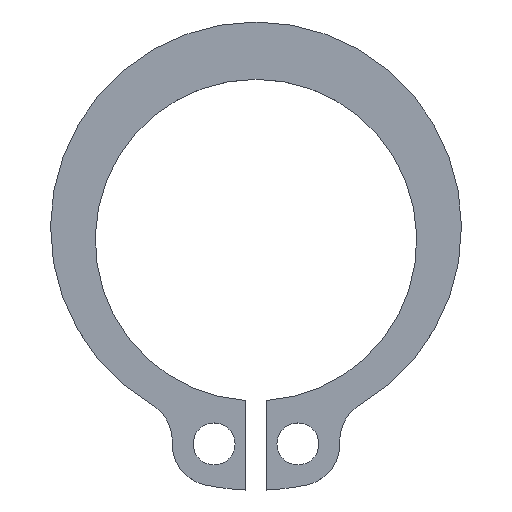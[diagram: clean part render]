
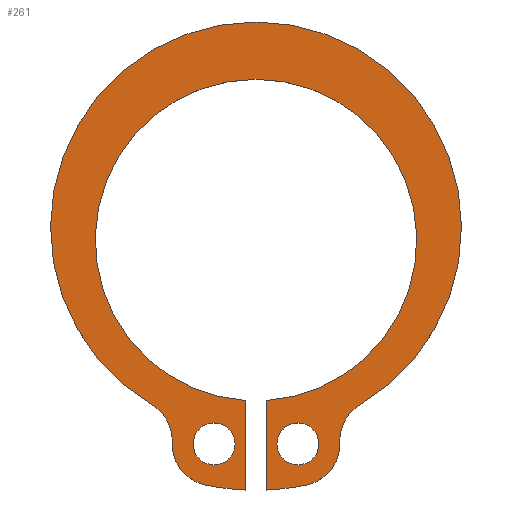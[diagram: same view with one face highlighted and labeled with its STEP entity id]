
A CAD part, top view. The second image highlights one B-rep face of the part: STEP entity #261.
In plain terms, the highlighted planar face has unit normal (0, 0, 1).
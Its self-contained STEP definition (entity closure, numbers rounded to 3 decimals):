
#15=FACE_BOUND('',#50,.T.);
#16=FACE_BOUND('',#51,.T.);
#21=PLANE('',#318);
#35=FACE_OUTER_BOUND('',#49,.T.);
#49=EDGE_LOOP('',(#215,#216,#217,#218,#219,#220,#221,#222,#223,#224));
#50=EDGE_LOOP('',(#225));
#51=EDGE_LOOP('',(#226));
#64=LINE('',#460,#80);
#68=LINE('',#472,#84);
#80=VECTOR('',#381,10.);
#84=VECTOR('',#393,10.);
#88=CIRCLE('',#288,0.75);
#90=CIRCLE('',#291,0.75);
#91=CIRCLE('',#293,1.5);
#93=CIRCLE('',#296,1.5);
#95=CIRCLE('',#299,7.35);
#97=CIRCLE('',#302,1.5);
#99=CIRCLE('',#305,1.5);
#101=CIRCLE('',#308,8.946);
#103=CIRCLE('',#312,5.75);
#105=CIRCLE('',#316,8.946);
#108=VERTEX_POINT('',#410);
#110=VERTEX_POINT('',#416);
#111=VERTEX_POINT('',#420);
#112=VERTEX_POINT('',#421);
#115=VERTEX_POINT('',#429);
#117=VERTEX_POINT('',#435);
#119=VERTEX_POINT('',#441);
#121=VERTEX_POINT('',#447);
#123=VERTEX_POINT('',#453);
#125=VERTEX_POINT('',#459);
#127=VERTEX_POINT('',#465);
#129=VERTEX_POINT('',#471);
#133=EDGE_CURVE('',#108,#108,#88,.T.);
#136=EDGE_CURVE('',#110,#110,#90,.T.);
#137=EDGE_CURVE('',#111,#112,#91,.T.);
#141=EDGE_CURVE('',#112,#115,#93,.T.);
#144=EDGE_CURVE('',#115,#117,#95,.T.);
#147=EDGE_CURVE('',#117,#119,#97,.T.);
#150=EDGE_CURVE('',#119,#121,#99,.T.);
#153=EDGE_CURVE('',#121,#123,#101,.T.);
#156=EDGE_CURVE('',#123,#125,#64,.T.);
#159=EDGE_CURVE('',#125,#127,#103,.T.);
#162=EDGE_CURVE('',#127,#129,#68,.T.);
#165=EDGE_CURVE('',#129,#111,#105,.T.);
#215=ORIENTED_EDGE('',*,*,#137,.F.);
#216=ORIENTED_EDGE('',*,*,#165,.F.);
#217=ORIENTED_EDGE('',*,*,#162,.F.);
#218=ORIENTED_EDGE('',*,*,#159,.F.);
#219=ORIENTED_EDGE('',*,*,#156,.F.);
#220=ORIENTED_EDGE('',*,*,#153,.F.);
#221=ORIENTED_EDGE('',*,*,#150,.F.);
#222=ORIENTED_EDGE('',*,*,#147,.F.);
#223=ORIENTED_EDGE('',*,*,#144,.F.);
#224=ORIENTED_EDGE('',*,*,#141,.F.);
#225=ORIENTED_EDGE('',*,*,#133,.T.);
#226=ORIENTED_EDGE('',*,*,#136,.T.);
#261=ADVANCED_FACE('',(#35,#15,#16),#21,.T.);
#288=AXIS2_PLACEMENT_3D('',#412,#327,#328);
#291=AXIS2_PLACEMENT_3D('',#418,#334,#335);
#293=AXIS2_PLACEMENT_3D('',#422,#338,#339);
#296=AXIS2_PLACEMENT_3D('',#430,#346,#347);
#299=AXIS2_PLACEMENT_3D('',#436,#353,#354);
#302=AXIS2_PLACEMENT_3D('',#442,#360,#361);
#305=AXIS2_PLACEMENT_3D('',#448,#367,#368);
#308=AXIS2_PLACEMENT_3D('',#454,#374,#375);
#312=AXIS2_PLACEMENT_3D('',#466,#386,#387);
#316=AXIS2_PLACEMENT_3D('',#477,#398,#399);
#318=AXIS2_PLACEMENT_3D('',#479,#402,#403);
#327=DIRECTION('center_axis',(0.,0.,-1.));
#328=DIRECTION('ref_axis',(-1.,0.,0.));
#334=DIRECTION('center_axis',(0.,0.,-1.));
#335=DIRECTION('ref_axis',(-1.,0.,0.));
#338=DIRECTION('center_axis',(0.,0.,-1.));
#339=DIRECTION('ref_axis',(0.999,-0.04,0.));
#346=DIRECTION('center_axis',(0.,0.,1.));
#347=DIRECTION('ref_axis',(0.999,-0.04,0.));
#353=DIRECTION('center_axis',(0.,0.,-1.));
#354=DIRECTION('ref_axis',(-0.508,0.861,0.));
#360=DIRECTION('center_axis',(0.,0.,1.));
#361=DIRECTION('ref_axis',(-0.508,0.861,0.));
#367=DIRECTION('center_axis',(0.,0.,-1.));
#368=DIRECTION('ref_axis',(-0.201,0.979,0.));
#374=DIRECTION('center_axis',(0.,0.,-1.));
#375=DIRECTION('ref_axis',(-0.042,0.999,0.));
#381=DIRECTION('',(0.,1.,0.));
#386=DIRECTION('center_axis',(0.,0.,1.));
#387=DIRECTION('ref_axis',(0.065,-0.998,0.));
#393=DIRECTION('',(0.,-1.,0.));
#398=DIRECTION('center_axis',(0.,0.,-1.));
#399=DIRECTION('ref_axis',(0.201,0.979,0.));
#402=DIRECTION('center_axis',(0.,0.,1.));
#403=DIRECTION('ref_axis',(1.,0.,0.));
#410=CARTESIAN_POINT('',(2.25,-13.293,1.));
#412=CARTESIAN_POINT('Origin',(1.5,-13.293,1.));
#416=CARTESIAN_POINT('',(-0.75,-13.293,1.));
#418=CARTESIAN_POINT('Origin',(-1.5,-13.293,1.));
#420=CARTESIAN_POINT('',(-1.802,-14.762,1.));
#421=CARTESIAN_POINT('',(-2.999,-13.232,1.));
#422=CARTESIAN_POINT('Origin',(-1.5,-13.293,1.));
#429=CARTESIAN_POINT('',(-3.735,-11.88,1.));
#430=CARTESIAN_POINT('Origin',(-4.498,-13.172,1.));
#435=CARTESIAN_POINT('',(3.735,-11.88,1.));
#436=CARTESIAN_POINT('Origin',(0.,-5.55,1.));
#441=CARTESIAN_POINT('',(2.999,-13.232,1.));
#442=CARTESIAN_POINT('Origin',(4.498,-13.172,1.));
#447=CARTESIAN_POINT('',(1.802,-14.762,1.));
#448=CARTESIAN_POINT('Origin',(1.5,-13.293,1.));
#453=CARTESIAN_POINT('',(0.375,-14.938,1.));
#454=CARTESIAN_POINT('Origin',(0.,-6.,1.));
#459=CARTESIAN_POINT('',(0.375,-11.738,1.));
#460=CARTESIAN_POINT('',(0.375,-14.938,1.));
#465=CARTESIAN_POINT('',(-0.375,-11.738,1.));
#466=CARTESIAN_POINT('Origin',(0.,-6.,1.));
#471=CARTESIAN_POINT('',(-0.375,-14.938,1.));
#472=CARTESIAN_POINT('',(-0.375,-11.738,1.));
#477=CARTESIAN_POINT('Origin',(0.,-6.,1.));
#479=CARTESIAN_POINT('Origin',(0.,-7.089,1.));
